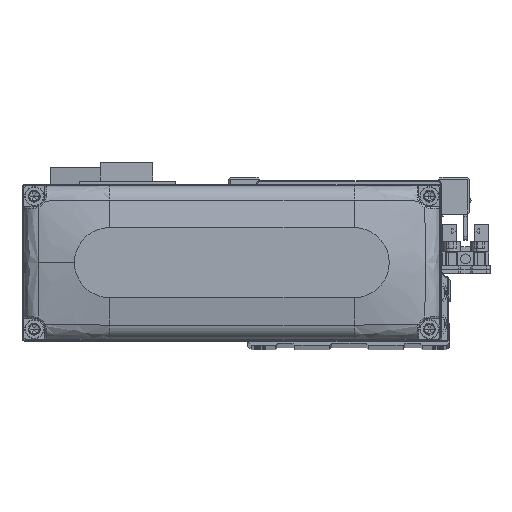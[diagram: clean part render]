
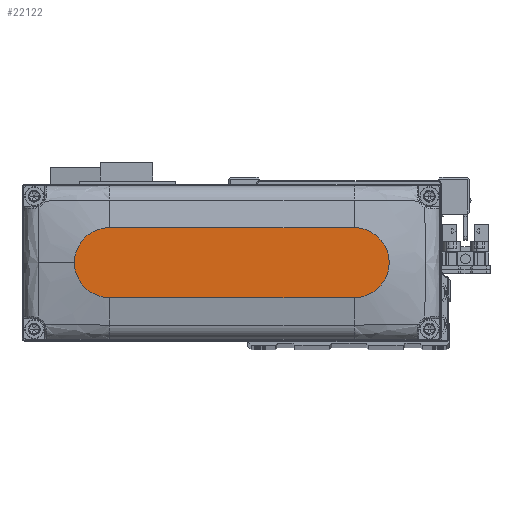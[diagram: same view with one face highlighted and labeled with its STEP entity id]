
A CAD part, top view. The second image highlights one B-rep face of the part: STEP entity #22122.
In plain terms, the highlighted planar face has unit normal (0, 0, 1).
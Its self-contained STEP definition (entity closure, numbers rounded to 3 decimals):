
#27 = ORIENTED_EDGE ( 'NONE', *, *, #3888, .T. ) ;
#639 = AXIS2_PLACEMENT_3D ( 'NONE', #19049, #31277, #3821 ) ;
#2489 = PLANE ( 'NONE',  #3415 ) ;
#3415 = AXIS2_PLACEMENT_3D ( 'NONE', #14753, #26988, #39153 ) ;
#3821 = DIRECTION ( 'NONE',  ( 1., 0., 0. ) ) ;
#3888 = EDGE_CURVE ( 'NONE', #30343, #13696, #32134, .T. ) ;
#4666 = CARTESIAN_POINT ( 'NONE',  ( -35., 10., 28. ) ) ;
#6518 = DIRECTION ( 'NONE',  ( 0., 0., 1. ) ) ;
#6602 = VECTOR ( 'NONE', #22250, 1000. ) ;
#7915 = ORIENTED_EDGE ( 'NONE', *, *, #37062, .T. ) ;
#8059 = VECTOR ( 'NONE', #16889, 1000. ) ;
#8530 = DIRECTION ( 'NONE',  ( 0., 0., 1. ) ) ;
#9996 = CARTESIAN_POINT ( 'NONE',  ( -35., -10., 28. ) ) ;
#10746 = CARTESIAN_POINT ( 'NONE',  ( 35., 10., 28. ) ) ;
#11031 = VERTEX_POINT ( 'NONE', #12740 ) ;
#12740 = CARTESIAN_POINT ( 'NONE',  ( 35., -10., 28. ) ) ;
#12743 = VERTEX_POINT ( 'NONE', #24338 ) ;
#13245 = EDGE_CURVE ( 'NONE', #11031, #12743, #17963, .T. ) ;
#13696 = VERTEX_POINT ( 'NONE', #16540 ) ;
#13862 = CIRCLE ( 'NONE', #18979, 10. ) ;
#14753 = CARTESIAN_POINT ( 'NONE',  ( 0., 0., 28. ) ) ;
#15316 = CIRCLE ( 'NONE', #37673, 10. ) ;
#16171 = VERTEX_POINT ( 'NONE', #27524 ) ;
#16540 = CARTESIAN_POINT ( 'NONE',  ( -35., 10., 28. ) ) ;
#16889 = DIRECTION ( 'NONE',  ( -1., 0., 0. ) ) ;
#17963 = CIRCLE ( 'NONE', #639, 10. ) ;
#18288 = EDGE_CURVE ( 'NONE', #12743, #30343, #15316, .T. ) ;
#18742 = DIRECTION ( 'NONE',  ( 1., 0., 0. ) ) ;
#18979 = AXIS2_PLACEMENT_3D ( 'NONE', #33965, #6518, #18742 ) ;
#19049 = CARTESIAN_POINT ( 'NONE',  ( 35., 0., 28. ) ) ;
#20765 = DIRECTION ( 'NONE',  ( 1., 0., 0. ) ) ;
#22122 = ADVANCED_FACE ( 'NONE', ( #29972 ), #2489, .T. ) ;
#22250 = DIRECTION ( 'NONE',  ( 1., 0., 0. ) ) ;
#23233 = EDGE_CURVE ( 'NONE', #16171, #11031, #37415, .T. ) ;
#24338 = CARTESIAN_POINT ( 'NONE',  ( 45., 0., 28. ) ) ;
#26988 = DIRECTION ( 'NONE',  ( 0., 0., 1. ) ) ;
#27524 = CARTESIAN_POINT ( 'NONE',  ( -35., -10., 28. ) ) ;
#28205 = EDGE_LOOP ( 'NONE', ( #27, #7915, #31571, #32099, #38299 ) ) ;
#29972 = FACE_OUTER_BOUND ( 'NONE', #28205, .T. ) ;
#30343 = VERTEX_POINT ( 'NONE', #10746 ) ;
#31277 = DIRECTION ( 'NONE',  ( 0., 0., 1. ) ) ;
#31571 = ORIENTED_EDGE ( 'NONE', *, *, #23233, .T. ) ;
#32099 = ORIENTED_EDGE ( 'NONE', *, *, #13245, .T. ) ;
#32134 = LINE ( 'NONE', #4666, #8059 ) ;
#33965 = CARTESIAN_POINT ( 'NONE',  ( -35., 0., 28. ) ) ;
#35964 = CARTESIAN_POINT ( 'NONE',  ( 35., 0., 28. ) ) ;
#37062 = EDGE_CURVE ( 'NONE', #13696, #16171, #13862, .T. ) ;
#37415 = LINE ( 'NONE', #9996, #6602 ) ;
#37673 = AXIS2_PLACEMENT_3D ( 'NONE', #35964, #8530, #20765 ) ;
#38299 = ORIENTED_EDGE ( 'NONE', *, *, #18288, .T. ) ;
#39153 = DIRECTION ( 'NONE',  ( 1., 0., 0. ) ) ;
